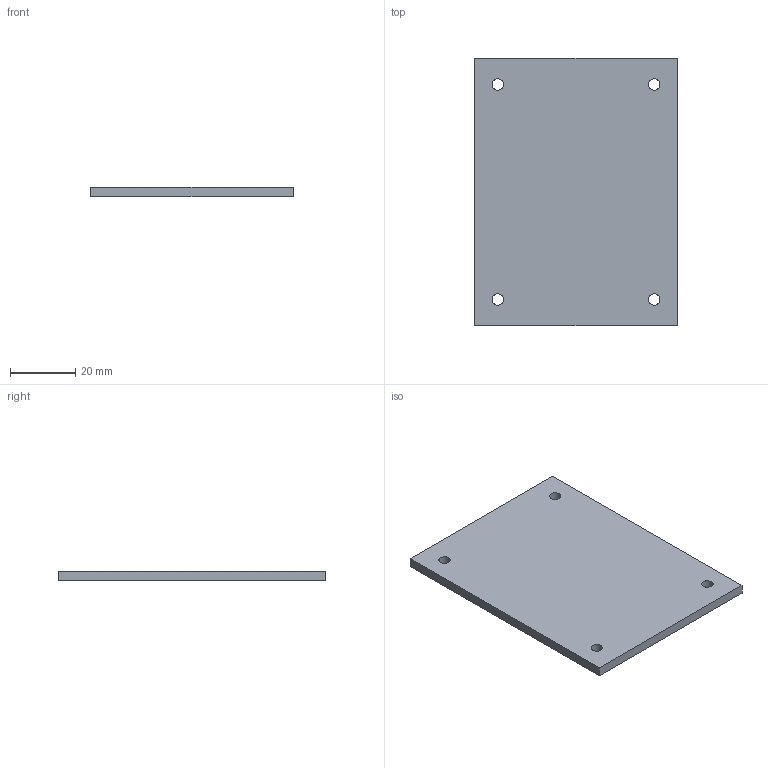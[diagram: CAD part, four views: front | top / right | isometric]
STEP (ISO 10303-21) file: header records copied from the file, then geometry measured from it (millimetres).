
FILE_DESCRIPTION(('Open CASCADE Model'),'2;1');
FILE_NAME('Open CASCADE Shape Model','2026-10-15T18:22:08',('Author'),( 'Open CASCADE'),'Open CASCADE STEP processor 7.9','Open CASCADE 7.9' ,'Unknown');
FILE_SCHEMA(('AUTOMOTIVE_DESIGN { 1 0 10303 214 1 1 1 1 }'));
Length unit declared in the file: millimetre
Products named in the file (1): Open CASCADE STEP translator 7.9 7
Bounding box: 62 x 82 x 3 mm (x, y, z)
Volume: 15136.5 mm3; surface area: 11087 mm2
Topology: 1 solids, 1 shells, 10 faces, 24 edges, 16 vertices
Faces by surface type: plane 6, cylinder 4
Full cylindrical faces by diameter (mm): 3.5 x4
Entity records: 634 total; most frequent: DIRECTION 102, CARTESIAN_POINT 99, LINE 56, VECTOR 56, ORIENTED_EDGE 48, PCURVE 48, DEFINITIONAL_REPRESENTATION 48, EDGE_CURVE 24
